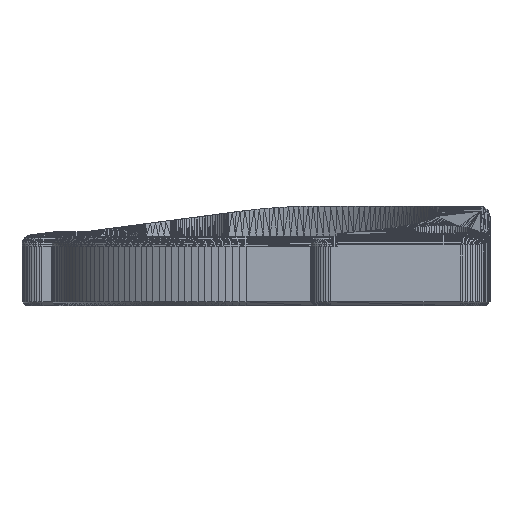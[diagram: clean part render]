
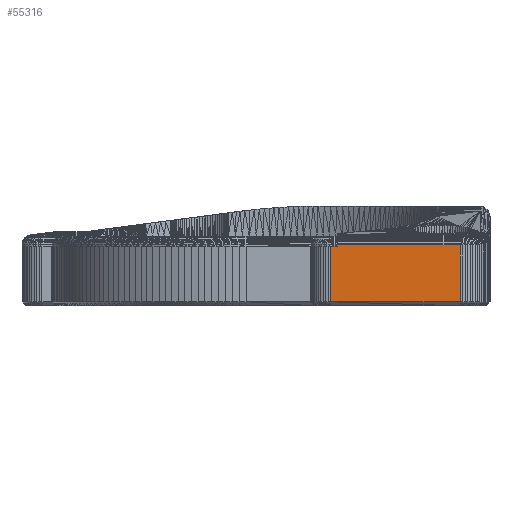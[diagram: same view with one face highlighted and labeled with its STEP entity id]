
A CAD part, front view. The second image highlights one B-rep face of the part: STEP entity #55316.
In plain terms, the highlighted planar face has unit normal (0, -1, 0).
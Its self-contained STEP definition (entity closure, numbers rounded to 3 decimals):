
#55182 = VERTEX_POINT('',#55183);
#55183 = CARTESIAN_POINT('',(89.471,1.788,
    6.123));
#55223 = PLANE('',#55224);
#55224 = AXIS2_PLACEMENT_3D('',#55225,#55226,#55227);
#55225 = CARTESIAN_POINT('',(89.471,1.788,
    0.4));
#55226 = DIRECTION('',(0.044,-0.999,-0.));
#55227 = DIRECTION('',(-0.999,-0.044,0.));
#55242 = VERTEX_POINT('',#55243);
#55243 = CARTESIAN_POINT('',(89.471,1.788,
    0.4));
#55291 = EDGE_CURVE('',#55182,#55242,#55292,.T.);
#55292 = SURFACE_CURVE('',#55293,(#55297,#55304),.PCURVE_S1.);
#55293 = LINE('',#55294,#55295);
#55294 = CARTESIAN_POINT('',(89.471,1.788,
    6.123));
#55295 = VECTOR('',#55296,1.);
#55296 = DIRECTION('',(0.,0.,-1.));
#55297 = PCURVE('',#55223,#55298);
#55298 = DEFINITIONAL_REPRESENTATION('',(#55299),#55303);
#55299 = LINE('',#55300,#55301);
#55300 = CARTESIAN_POINT('',(0.,-5.723));
#55301 = VECTOR('',#55302,1.);
#55302 = DIRECTION('',(-0.,1.));
#55303 = ( GEOMETRIC_REPRESENTATION_CONTEXT(2) 
PARAMETRIC_REPRESENTATION_CONTEXT() REPRESENTATION_CONTEXT('2D SPACE',''
  ) );
#55304 = PCURVE('',#55305,#55310);
#55305 = PLANE('',#55306);
#55306 = AXIS2_PLACEMENT_3D('',#55307,#55308,#55309);
#55307 = CARTESIAN_POINT('',(77.126,1.788,6.));
#55308 = DIRECTION('',(0.,-1.,0.));
#55309 = DIRECTION('',(0.,-0.,-1.));
#55310 = DEFINITIONAL_REPRESENTATION('',(#55311),#55315);
#55311 = LINE('',#55312,#55313);
#55312 = CARTESIAN_POINT('',(-0.123,12.345));
#55313 = VECTOR('',#55314,1.);
#55314 = DIRECTION('',(1.,0.));
#55315 = ( GEOMETRIC_REPRESENTATION_CONTEXT(2) 
PARAMETRIC_REPRESENTATION_CONTEXT() REPRESENTATION_CONTEXT('2D SPACE',''
  ) );
#55316 = ADVANCED_FACE('',(#55317),#55305,.T.);
#55317 = FACE_BOUND('',#55318,.T.);
#55318 = EDGE_LOOP('',(#55319,#55349,#55377,#55403,#55404,#55432));
#55319 = ORIENTED_EDGE('',*,*,#55320,.F.);
#55320 = EDGE_CURVE('',#55321,#55323,#55325,.T.);
#55321 = VERTEX_POINT('',#55322);
#55322 = CARTESIAN_POINT('',(76.471,1.788,6.));
#55323 = VERTEX_POINT('',#55324);
#55324 = CARTESIAN_POINT('',(77.126,1.788,6.));
#55325 = SURFACE_CURVE('',#55326,(#55330,#55337),.PCURVE_S1.);
#55326 = LINE('',#55327,#55328);
#55327 = CARTESIAN_POINT('',(76.471,1.788,6.));
#55328 = VECTOR('',#55329,1.);
#55329 = DIRECTION('',(1.,0.,0.));
#55330 = PCURVE('',#55305,#55331);
#55331 = DEFINITIONAL_REPRESENTATION('',(#55332),#55336);
#55332 = LINE('',#55333,#55334);
#55333 = CARTESIAN_POINT('',(-0.,-0.655));
#55334 = VECTOR('',#55335,1.);
#55335 = DIRECTION('',(0.,1.));
#55336 = ( GEOMETRIC_REPRESENTATION_CONTEXT(2) 
PARAMETRIC_REPRESENTATION_CONTEXT() REPRESENTATION_CONTEXT('2D SPACE',''
  ) );
#55337 = PCURVE('',#55338,#55343);
#55338 = PLANE('',#55339);
#55339 = AXIS2_PLACEMENT_3D('',#55340,#55341,#55342);
#55340 = CARTESIAN_POINT('',(76.471,1.788,6.));
#55341 = DIRECTION('',(0.,-0.997,0.078));
#55342 = DIRECTION('',(0.,-0.078,-0.997));
#55343 = DEFINITIONAL_REPRESENTATION('',(#55344),#55348);
#55344 = LINE('',#55345,#55346);
#55345 = CARTESIAN_POINT('',(0.,0.));
#55346 = VECTOR('',#55347,1.);
#55347 = DIRECTION('',(0.,1.));
#55348 = ( GEOMETRIC_REPRESENTATION_CONTEXT(2) 
PARAMETRIC_REPRESENTATION_CONTEXT() REPRESENTATION_CONTEXT('2D SPACE',''
  ) );
#55349 = ORIENTED_EDGE('',*,*,#55350,.F.);
#55350 = EDGE_CURVE('',#55351,#55321,#55353,.T.);
#55351 = VERTEX_POINT('',#55352);
#55352 = CARTESIAN_POINT('',(76.471,1.788,
    0.4));
#55353 = SURFACE_CURVE('',#55354,(#55358,#55365),.PCURVE_S1.);
#55354 = LINE('',#55355,#55356);
#55355 = CARTESIAN_POINT('',(76.471,1.788,
    0.4));
#55356 = VECTOR('',#55357,1.);
#55357 = DIRECTION('',(0.,0.,1.));
#55358 = PCURVE('',#55305,#55359);
#55359 = DEFINITIONAL_REPRESENTATION('',(#55360),#55364);
#55360 = LINE('',#55361,#55362);
#55361 = CARTESIAN_POINT('',(5.6,-0.655));
#55362 = VECTOR('',#55363,1.);
#55363 = DIRECTION('',(-1.,0.));
#55364 = ( GEOMETRIC_REPRESENTATION_CONTEXT(2) 
PARAMETRIC_REPRESENTATION_CONTEXT() REPRESENTATION_CONTEXT('2D SPACE',''
  ) );
#55365 = PCURVE('',#55366,#55371);
#55366 = PLANE('',#55367);
#55367 = AXIS2_PLACEMENT_3D('',#55368,#55369,#55370);
#55368 = CARTESIAN_POINT('',(76.21,1.805,
    0.4));
#55369 = DIRECTION('',(-0.065,-0.998,
    0.));
#55370 = DIRECTION('',(-0.998,0.065,0.));
#55371 = DEFINITIONAL_REPRESENTATION('',(#55372),#55376);
#55372 = LINE('',#55373,#55374);
#55373 = CARTESIAN_POINT('',(-0.262,0.));
#55374 = VECTOR('',#55375,1.);
#55375 = DIRECTION('',(0.,-1.));
#55376 = ( GEOMETRIC_REPRESENTATION_CONTEXT(2) 
PARAMETRIC_REPRESENTATION_CONTEXT() REPRESENTATION_CONTEXT('2D SPACE',''
  ) );
#55377 = ORIENTED_EDGE('',*,*,#55378,.F.);
#55378 = EDGE_CURVE('',#55242,#55351,#55379,.T.);
#55379 = SURFACE_CURVE('',#55380,(#55384,#55391),.PCURVE_S1.);
#55380 = LINE('',#55381,#55382);
#55381 = CARTESIAN_POINT('',(89.471,1.788,
    0.4));
#55382 = VECTOR('',#55383,1.);
#55383 = DIRECTION('',(-1.,0.,0.));
#55384 = PCURVE('',#55305,#55385);
#55385 = DEFINITIONAL_REPRESENTATION('',(#55386),#55390);
#55386 = LINE('',#55387,#55388);
#55387 = CARTESIAN_POINT('',(5.6,12.345));
#55388 = VECTOR('',#55389,1.);
#55389 = DIRECTION('',(-0.,-1.));
#55390 = ( GEOMETRIC_REPRESENTATION_CONTEXT(2) 
PARAMETRIC_REPRESENTATION_CONTEXT() REPRESENTATION_CONTEXT('2D SPACE',''
  ) );
#55391 = PCURVE('',#55392,#55397);
#55392 = PLANE('',#55393);
#55393 = AXIS2_PLACEMENT_3D('',#55394,#55395,#55396);
#55394 = CARTESIAN_POINT('',(76.471,1.788,
    0.4));
#55395 = DIRECTION('',(0.,-0.707,-0.707));
#55396 = DIRECTION('',(0.,0.707,-0.707));
#55397 = DEFINITIONAL_REPRESENTATION('',(#55398),#55402);
#55398 = LINE('',#55399,#55400);
#55399 = CARTESIAN_POINT('',(0.,13.));
#55400 = VECTOR('',#55401,1.);
#55401 = DIRECTION('',(0.,-1.));
#55402 = ( GEOMETRIC_REPRESENTATION_CONTEXT(2) 
PARAMETRIC_REPRESENTATION_CONTEXT() REPRESENTATION_CONTEXT('2D SPACE',''
  ) );
#55403 = ORIENTED_EDGE('',*,*,#55291,.F.);
#55404 = ORIENTED_EDGE('',*,*,#55405,.F.);
#55405 = EDGE_CURVE('',#55406,#55182,#55408,.T.);
#55406 = VERTEX_POINT('',#55407);
#55407 = CARTESIAN_POINT('',(77.126,1.788,
    6.123));
#55408 = SURFACE_CURVE('',#55409,(#55413,#55420),.PCURVE_S1.);
#55409 = LINE('',#55410,#55411);
#55410 = CARTESIAN_POINT('',(77.126,1.788,
    6.123));
#55411 = VECTOR('',#55412,1.);
#55412 = DIRECTION('',(1.,0.,0.));
#55413 = PCURVE('',#55305,#55414);
#55414 = DEFINITIONAL_REPRESENTATION('',(#55415),#55419);
#55415 = LINE('',#55416,#55417);
#55416 = CARTESIAN_POINT('',(-0.123,0.));
#55417 = VECTOR('',#55418,1.);
#55418 = DIRECTION('',(0.,1.));
#55419 = ( GEOMETRIC_REPRESENTATION_CONTEXT(2) 
PARAMETRIC_REPRESENTATION_CONTEXT() REPRESENTATION_CONTEXT('2D SPACE',''
  ) );
#55420 = PCURVE('',#55421,#55426);
#55421 = PLANE('',#55422);
#55422 = AXIS2_PLACEMENT_3D('',#55423,#55424,#55425);
#55423 = CARTESIAN_POINT('',(89.471,1.798,
    6.267));
#55424 = DIRECTION('',(-0.,-0.997,0.072));
#55425 = DIRECTION('',(0.,-0.072,-0.997));
#55426 = DEFINITIONAL_REPRESENTATION('',(#55427),#55431);
#55427 = LINE('',#55428,#55429);
#55428 = CARTESIAN_POINT('',(0.144,-12.345));
#55429 = VECTOR('',#55430,1.);
#55430 = DIRECTION('',(0.,1.));
#55431 = ( GEOMETRIC_REPRESENTATION_CONTEXT(2) 
PARAMETRIC_REPRESENTATION_CONTEXT() REPRESENTATION_CONTEXT('2D SPACE',''
  ) );
#55432 = ORIENTED_EDGE('',*,*,#55433,.F.);
#55433 = EDGE_CURVE('',#55323,#55406,#55434,.T.);
#55434 = SURFACE_CURVE('',#55435,(#55439,#55446),.PCURVE_S1.);
#55435 = LINE('',#55436,#55437);
#55436 = CARTESIAN_POINT('',(77.126,1.788,6.));
#55437 = VECTOR('',#55438,1.);
#55438 = DIRECTION('',(0.,0.,1.));
#55439 = PCURVE('',#55305,#55440);
#55440 = DEFINITIONAL_REPRESENTATION('',(#55441),#55445);
#55441 = LINE('',#55442,#55443);
#55442 = CARTESIAN_POINT('',(0.,0.));
#55443 = VECTOR('',#55444,1.);
#55444 = DIRECTION('',(-1.,0.));
#55445 = ( GEOMETRIC_REPRESENTATION_CONTEXT(2) 
PARAMETRIC_REPRESENTATION_CONTEXT() REPRESENTATION_CONTEXT('2D SPACE',''
  ) );
#55446 = PCURVE('',#55447,#55452);
#55447 = PLANE('',#55448);
#55448 = AXIS2_PLACEMENT_3D('',#55449,#55450,#55451);
#55449 = CARTESIAN_POINT('',(77.126,6.788,
    7.263));
#55450 = DIRECTION('',(-1.,-0.,0.));
#55451 = DIRECTION('',(-0.,0.,-1.));
#55452 = DEFINITIONAL_REPRESENTATION('',(#55453),#55457);
#55453 = LINE('',#55454,#55455);
#55454 = CARTESIAN_POINT('',(1.263,5.));
#55455 = VECTOR('',#55456,1.);
#55456 = DIRECTION('',(-1.,0.));
#55457 = ( GEOMETRIC_REPRESENTATION_CONTEXT(2) 
PARAMETRIC_REPRESENTATION_CONTEXT() REPRESENTATION_CONTEXT('2D SPACE',''
  ) );
